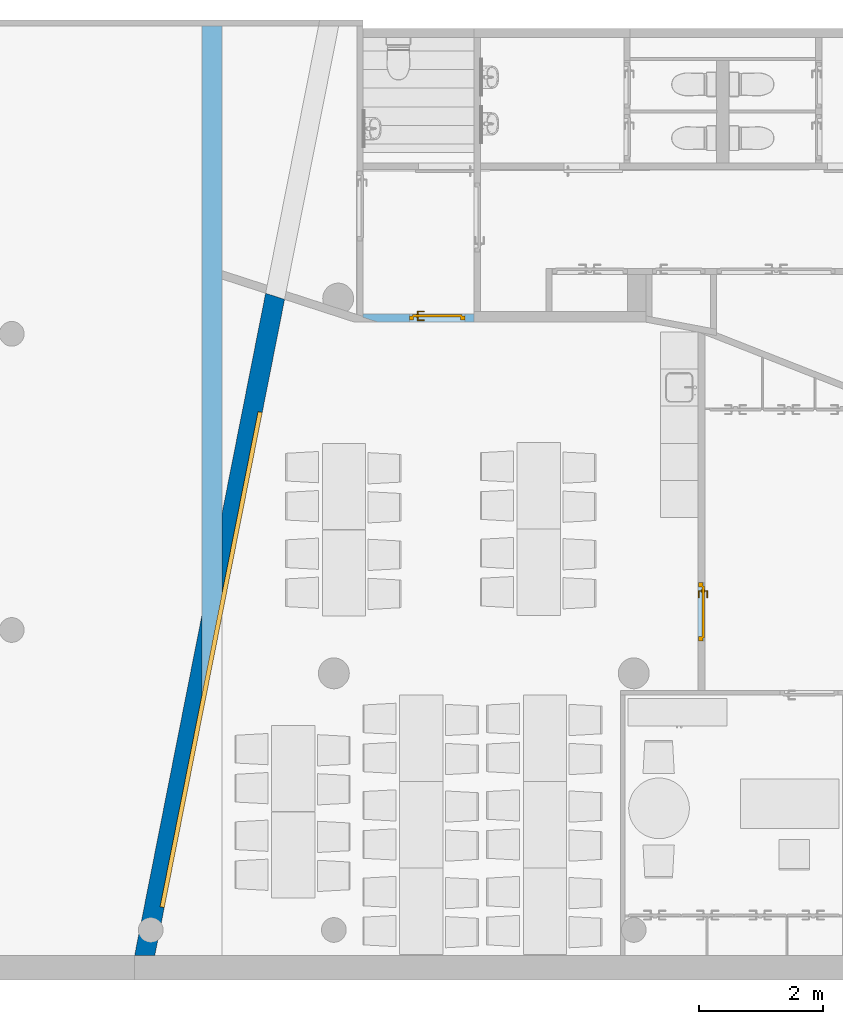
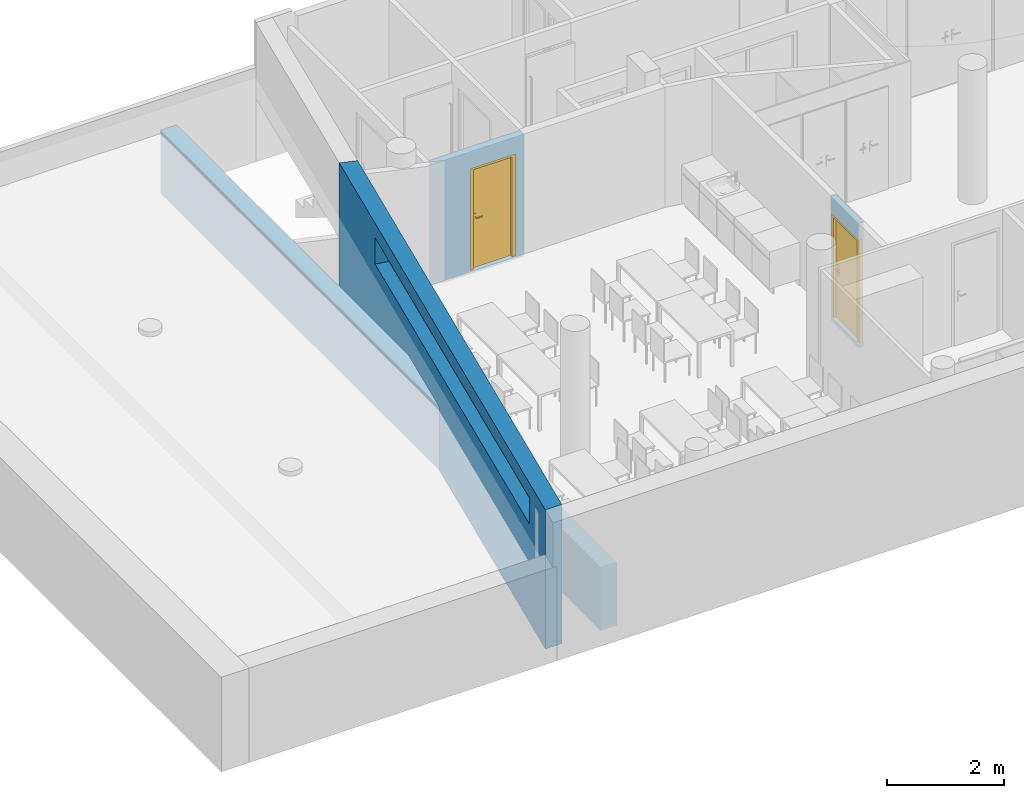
"""IFC4 building model written with IfcOpenShell, lengths in metres."""

from ifc_helpers import new_model, entity, si_unit, converted_unit, derived_unit, frame, frame_2d, origin, origin_with_axes, place, context, subcontext, project, spatial, polyline, rectangle, outline, extrude, closed_shell, open_shell, faceted_brep, surface_model, source, transform, mapped, material, layer, layer_set, layer_usage, type_object, element, fill, save


model = new_model("IFC4")

# Units and contexts
model_context = context("Model", 3, precision=1e-05, world=origin())
body_context = subcontext(model_context, "Body", "Model", "MODEL_VIEW")
ifc_project = project(units=[si_unit("LENGTHUNIT", "METRE"), si_unit("AREAUNIT", "SQUARE_METRE"), si_unit("VOLUMEUNIT", "CUBIC_METRE"), si_unit("MASSUNIT", "GRAM", prefix="KILO"), converted_unit("PLANEANGLEUNIT", "DEGREE", entity("IfcPlaneAngleMeasure", 0.0174532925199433), si_unit("PLANEANGLEUNIT", "RADIAN"), dimensions=[0, 0, 0, 0, 0, 0, 0]), derived_unit("THERMALTRANSMITTANCEUNIT", [(si_unit("POWERUNIT", "WATT"), 1), (si_unit("THERMODYNAMICTEMPERATUREUNIT", "KELVIN"), -1), (si_unit("LENGTHUNIT", "METRE"), -2)]), derived_unit("VOLUMETRICFLOWRATEUNIT", [(si_unit("LENGTHUNIT", "METRE"), 3), (converted_unit("TIMEUNIT", "hour", entity("IfcTimeMeasure", 3600.0), si_unit("TIMEUNIT", "SECOND"), dimensions=[0, 0, 1, 0, 0, 0, 0]), -1), (si_unit("LENGTHUNIT", "METRE"), -1)])], contexts=[model_context])

# Building, storeys
building_placement = place(None, origin())
building = spatial("IfcBuilding", under=ifc_project, at=building_placement, Name="HABITATGE PLURIFAMILIAR", CompositionType="ELEMENT")
storey_1_placement = place(building_placement, frame((0.0, 0.0, 3.35)))
storey_1 = spatial("IfcBuildingStorey", under=building, at=storey_1_placement, Name="PLANTA  ALTELL", CompositionType="ELEMENT", Elevation=3.35)
storey_2_placement = place(storey_1_placement, origin())
storey_2 = spatial("IfcBuildingStorey", under=storey_1, at=storey_2_placement, Name="NOU", CompositionType="PARTIAL")

# Wall, opening, door
ifc_material_1 = material()
ifc_layer_1 = layer(ifc_material_1, 0.13)
ifc_layer_set_1 = layer_set([ifc_layer_1])
ifc_layer_usage_1 = layer_usage(ifc_layer_set_1, "AXIS2", "POSITIVE", 0.0)
wall_1_placement = place(storey_2_placement, frame((401.697874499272, 23.4795914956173, -0.05)))
wall_1 = element("IfcWall", 1, at=wall_1_placement, inside=storey_2, material=ifc_layer_usage_1, Name="Evans PA", context=body_context, shape_type="SweptSolid", body=[
    extrude(outline(polyline([(0.239131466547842, 0.0), (1.79839908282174, 0.0), (1.79839908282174, 0.13), (0.0, 0.13), (0.0, 0.0777705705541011), (0.239131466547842, 0.0)])), frame((-0.239131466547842, 0.0, 0.0), z_axis=(0.0, 0.0, 1.0), x_axis=(1.0, 0.0, 0.0)), (0.0, 0.0, 1.0), 2.55),
])
opening_1_placement = place(wall_1_placement, frame((1.40926911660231, 0.13, 0.05), z_axis=(0.0, -1.0, 0.0), x_axis=(0.0, 0.0, 1.0)))
opening_1 = element("IfcOpeningElement", 2, at=opening_1_placement, cuts=wall_1, Name="Vano de puerta PA", ObjectType="Opening", context=body_context, shape_type="SweptSolid", body=[
    extrude(outline(polyline([(2.15, 0.89999099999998), (2.15, 0.0), (0.0, 0.0), (0.0, 0.89999099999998), (2.15, 0.89999099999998)])), origin_with_axes(), (0.0, 0.0, 1.0), 0.13),
])
shared_shape_1 = source(origin_with_axes(), body_context, "Body", "Brep", [
    faceted_brep([(0.0, 0.07, 2.15), (0.0, 0.07, 0.0), (0.070000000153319, 0.07, 0.0), (0.070000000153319, 0.07, 2.15), (0.0, 0.0, 0.0), (0.0, 0.0, 2.15), (0.070000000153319, 0.0, 2.15), (0.070000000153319, 0.0, 0.0)], [[[0, 1, 2, 3]], [[4, 5, 6, 7]], [[1, 0, 5, 4]], [[2, 1, 4, 7]], [[3, 2, 7, 6]], [[0, 3, 6, 5]]], orient=[[False], [False], [False], [False], [False], [False]]),
    faceted_brep([(0.829990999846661, 0.07, 2.15), (0.829990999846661, 0.07, 0.0), (0.89999099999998, 0.07, 0.0), (0.89999099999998, 0.07, 2.15), (0.829990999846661, 0.0, 0.0), (0.829990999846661, 0.0, 2.15), (0.89999099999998, 0.0, 2.15), (0.89999099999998, 0.0, 0.0)], [[[0, 1, 2, 3]], [[4, 5, 6, 7]], [[1, 0, 5, 4]], [[2, 1, 4, 7]], [[3, 2, 7, 6]], [[0, 3, 6, 5]]], orient=[[False], [False], [False], [False], [False], [False]]),
    faceted_brep([(0.070000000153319, 0.07, 2.15), (0.070000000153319, 0.07, 2.08), (0.829990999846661, 0.07, 2.08), (0.829990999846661, 0.07, 2.15), (0.070000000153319, 0.0, 2.08), (0.070000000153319, 0.0, 2.15), (0.829990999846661, 0.0, 2.15), (0.829990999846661, 0.0, 2.08)], [[[0, 1, 2, 3]], [[4, 5, 6, 7]], [[1, 0, 5, 4]], [[2, 1, 4, 7]], [[3, 2, 7, 6]], [[0, 3, 6, 5]]], orient=[[False], [False], [False], [False], [False], [False]]),
    faceted_brep([(0.0500000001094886, 0.09, 2.1), (0.0500000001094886, 0.09, 0.0), (0.849990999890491, 0.09, 0.0), (0.849990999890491, 0.09, 2.1), (0.0500000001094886, 0.05, 0.0), (0.0500000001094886, 0.05, 2.1), (0.849990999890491, 0.05, 2.1), (0.849990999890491, 0.05, 0.0)], [[[0, 1, 2, 3]], [[4, 5, 6, 7]], [[1, 0, 5, 4]], [[2, 1, 4, 7]], [[3, 2, 7, 6]], [[0, 3, 6, 5]]], orient=[[False], [False], [False], [False], [False], [False]]),
    faceted_brep([(0.110000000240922, 0.05, 1.125), (0.110000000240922, 0.05, 0.91), (0.16000000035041, 0.05, 0.91), (0.16000000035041, 0.05, 1.125), (0.110000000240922, 0.04, 0.91), (0.110000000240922, 0.04, 1.125), (0.16000000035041, 0.04, 1.125), (0.16000000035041, 0.04, 0.91)], [[[0, 1, 2, 3]], [[4, 5, 6, 7]], [[1, 0, 5, 4]], [[2, 1, 4, 7]], [[3, 2, 7, 6]], [[0, 3, 6, 5]]], orient=[[False], [False], [False], [False], [False], [False]]),
    faceted_brep([(0.135000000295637, 0.04, 1.06), (0.130000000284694, 0.04, 1.05866025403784), (0.126339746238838, 0.04, 1.055), (0.125000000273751, 0.04, 1.05), (0.126339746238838, 0.04, 1.045), (0.130000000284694, 0.04, 1.04133974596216), (0.135000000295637, 0.04, 1.04), (0.14000000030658, 0.04, 1.04133974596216), (0.143660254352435, 0.04, 1.045), (0.145000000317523, 0.04, 1.05), (0.143660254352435, 0.04, 1.055), (0.14000000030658, 0.04, 1.05866025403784), (0.135000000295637, 0.0, 1.06), (0.130000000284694, -0.005, 1.05866025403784), (0.126339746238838, -0.00866025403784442, 1.055), (0.125000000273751, -0.01, 1.05), (0.126339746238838, -0.00866025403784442, 1.045), (0.130000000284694, -0.005, 1.04133974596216), (0.135000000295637, 0.0, 1.04), (0.14000000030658, 0.005, 1.04133974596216), (0.143660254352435, 0.00866025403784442, 1.045), (0.145000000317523, 0.01, 1.05), (0.143660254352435, 0.00866025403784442, 1.055), (0.14000000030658, 0.005, 1.05866025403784), (0.250000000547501, 0.0, 1.06), (0.250000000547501, 0.005, 1.05866025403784), (0.250000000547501, 0.00866025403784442, 1.055), (0.250000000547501, 0.01, 1.05), (0.250000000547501, 0.00866025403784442, 1.045), (0.250000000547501, 0.005, 1.04133974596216), (0.250000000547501, 0.0, 1.04), (0.250000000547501, -0.005, 1.04133974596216), (0.250000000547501, -0.00866025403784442, 1.045), (0.250000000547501, -0.01, 1.05), (0.250000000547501, -0.00866025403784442, 1.055), (0.250000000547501, -0.005, 1.05866025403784)], [[[0, 1, 2, 3, 4, 5, 6, 7, 8, 9, 10, 11]], [[0, 12, 13, 1]], [[1, 13, 14, 2]], [[2, 14, 15, 3]], [[3, 15, 16, 4]], [[4, 16, 17, 5]], [[5, 17, 18, 6]], [[6, 18, 19, 7]], [[7, 19, 20, 8]], [[8, 20, 21, 9]], [[9, 21, 22, 10]], [[10, 22, 23, 11]], [[11, 23, 12, 0]], [[24, 25, 26, 27, 28, 29, 30, 31, 32, 33, 34, 35]], [[12, 24, 35, 13]], [[13, 35, 34, 14]], [[14, 34, 33, 15]], [[15, 33, 32, 16]], [[16, 32, 31, 17]], [[17, 31, 30, 18]], [[18, 30, 29, 19]], [[19, 29, 28, 20]], [[20, 28, 27, 21]], [[21, 27, 26, 22]], [[22, 26, 25, 23]], [[23, 25, 24, 12]]], orient=[[False], [False], [False], [False], [False], [False], [False], [False], [False], [False], [False], [False], [False], [False], [False], [False], [False], [False], [False], [False], [False], [False], [False], [False], [False], [False]]),
    faceted_brep([(0.110000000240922, 0.09, 1.125), (0.16000000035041, 0.09, 1.125), (0.16000000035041, 0.09, 0.91), (0.110000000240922, 0.09, 0.91), (0.110000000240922, 0.1, 0.91), (0.16000000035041, 0.1, 0.91), (0.16000000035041, 0.1, 1.125), (0.110000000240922, 0.1, 1.125)], [[[0, 1, 2, 3]], [[4, 5, 6, 7]], [[3, 4, 7, 0]], [[2, 5, 4, 3]], [[1, 6, 5, 2]], [[0, 7, 6, 1]]], orient=[[False], [False], [False], [False], [False], [False]]),
    faceted_brep([(0.135000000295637, 0.1, 1.06), (0.14000000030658, 0.1, 1.05866025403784), (0.143660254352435, 0.1, 1.055), (0.145000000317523, 0.1, 1.05), (0.143660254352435, 0.1, 1.045), (0.14000000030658, 0.1, 1.04133974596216), (0.135000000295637, 0.1, 1.04), (0.130000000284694, 0.1, 1.04133974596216), (0.126339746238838, 0.1, 1.045), (0.125000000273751, 0.1, 1.05), (0.126339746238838, 0.1, 1.055), (0.130000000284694, 0.1, 1.05866025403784), (0.130000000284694, 0.145, 1.05866025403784), (0.135000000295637, 0.14, 1.06), (0.126339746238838, 0.148660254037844, 1.055), (0.125000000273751, 0.15, 1.05), (0.126339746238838, 0.148660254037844, 1.045), (0.130000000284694, 0.145, 1.04133974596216), (0.135000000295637, 0.14, 1.04), (0.14000000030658, 0.135, 1.04133974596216), (0.143660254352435, 0.131339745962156, 1.045), (0.145000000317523, 0.13, 1.05), (0.143660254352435, 0.131339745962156, 1.055), (0.14000000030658, 0.135, 1.05866025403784), (0.250000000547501, 0.14, 1.06), (0.250000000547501, 0.145, 1.05866025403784), (0.250000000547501, 0.148660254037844, 1.055), (0.250000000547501, 0.15, 1.05), (0.250000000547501, 0.148660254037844, 1.045), (0.250000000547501, 0.145, 1.04133974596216), (0.250000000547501, 0.14, 1.04), (0.250000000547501, 0.135, 1.04133974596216), (0.250000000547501, 0.131339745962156, 1.045), (0.250000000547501, 0.13, 1.05), (0.250000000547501, 0.131339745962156, 1.055), (0.250000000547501, 0.135, 1.05866025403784)], [[[0, 1, 2, 3, 4, 5, 6, 7, 8, 9, 10, 11]], [[0, 11, 12, 13]], [[11, 10, 14, 12]], [[10, 9, 15, 14]], [[9, 8, 16, 15]], [[8, 7, 17, 16]], [[7, 6, 18, 17]], [[6, 5, 19, 18]], [[5, 4, 20, 19]], [[4, 3, 21, 20]], [[3, 2, 22, 21]], [[2, 1, 23, 22]], [[1, 0, 13, 23]], [[24, 25, 26, 27, 28, 29, 30, 31, 32, 33, 34, 35]], [[13, 12, 25, 24]], [[12, 14, 26, 25]], [[14, 15, 27, 26]], [[15, 16, 28, 27]], [[16, 17, 29, 28]], [[17, 18, 30, 29]], [[18, 19, 31, 30]], [[19, 20, 32, 31]], [[20, 21, 33, 32]], [[21, 22, 34, 33]], [[22, 23, 35, 34]], [[23, 13, 24, 35]]], orient=[[False], [False], [False], [False], [False], [False], [False], [False], [False], [False], [False], [False], [False], [False], [False], [False], [False], [False], [False], [False], [False], [False], [False], [False], [False], [False]]),
])
door_1_placement = place(opening_1_placement, frame((0.0, 0.89999099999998, 0.1), z_axis=(1.0, 0.0, 0.0), x_axis=(0.0, -1.0, 0.0)))
door_1 = element("IfcDoor", 3, at=door_1_placement, inside=storey_2, Name="Porta PA", OperationType="USERDEFINED", OverallHeight=2.15, OverallWidth=0.89999, PredefinedType="DOOR", context=body_context, shape_type="MappedRepresentation", body=[
    mapped(shared_shape_1, transform((0.0, 0.0, 0.0), x_axis=(1.0, 0.0, 0.0), y_axis=(0.0, 1.0, 0.0), z_axis=(0.0, 0.0, 1.0), scale=1.0)),
])
fill(opening_1, door_1)

ifc_material_2 = material()
ifc_layer_2 = layer(ifc_material_2, 0.32)
ifc_layer_set_2 = layer_set([ifc_layer_2])
ifc_layer_usage_2 = layer_usage(ifc_layer_set_2, "AXIS2", "POSITIVE", 0.0)
wall_2_placement = place(storey_2_placement, frame((399.177182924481, 13.2406121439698, -0.1), z_axis=(0.0, 0.0, 1.0), x_axis=(0.0, 1.0, 0.0)))
wall_2 = element("IfcWall", 4, at=wall_2_placement, inside=storey_2, material=ifc_layer_usage_2, Name="Evans PA", context=body_context, shape_type="SweptSolid", body=[
    extrude(rectangle(XDim=15.0232444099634, YDim=0.32, at=frame_2d((7.51162220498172, 0.16), x_axis=(1.0, 0.0))), origin_with_axes(), (0.0, 0.0, 1.0), 1.32),
])
opening_2_placement = place(wall_2_placement, frame((8.84038410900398, -0.338234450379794, 2.05), z_axis=(-0.19407706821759, -0.980986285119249, 0.0), x_axis=(0.0, 0.0, 1.0)))
opening_2 = element("IfcOpeningElement", 5, at=opening_2_placement, cuts=wall_2, Name="Vano de finestra PA", ObjectType="Opening", context=body_context, shape_type="SweptSolid", body=[
    extrude(outline(polyline([(0.55, 8.163087), (0.55, 0.0), (0.0, 0.0), (0.0, 8.163087), (0.55, 8.163087)])), origin_with_axes(), (0.0, 0.0, 1.0), 0.319999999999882),
])
door_type = type_object("IfcDoorType", Name="Finestra PSC", OperationType="NOTDEFINED", ParameterTakesPrecedence=False, PredefinedType="DOOR")
shared_shape_2 = source(origin_with_axes(), body_context, "Body", "SurfaceModel", [
    surface_model("IfcShellBasedSurfaceModel", [(0.0, 0.0700000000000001, 0.55), (0.0, 0.07, 0.0), (0.07, 0.07, 0.0), (0.07, 0.0700000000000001, 0.55), (0.0, 0.0, 0.0), (0.0, 0.0, 0.55), (0.07, 0.0, 0.55), (0.07, 0.0, 0.0)], [closed_shell([[[0, 1, 2, 3]], [[4, 5, 6, 7]], [[1, 0, 5, 4]], [[2, 1, 4, 7]], [[3, 2, 7, 6]], [[0, 3, 6, 5]]], orient=[[False], [False], [False], [False], [False], [False]])]),
    surface_model("IfcShellBasedSurfaceModel", [(8.093086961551, 0.0700000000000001, 0.55), (8.093086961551, 0.07, 0.0), (8.163086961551, 0.07, 0.0), (8.163086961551, 0.0700000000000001, 0.55), (8.093086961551, 0.0, 0.0), (8.093086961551, 0.0, 0.55), (8.163086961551, 0.0, 0.55), (8.163086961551, 0.0, 0.0)], [closed_shell([[[0, 1, 2, 3]], [[4, 5, 6, 7]], [[1, 0, 5, 4]], [[2, 1, 4, 7]], [[3, 2, 7, 6]], [[0, 3, 6, 5]]], orient=[[False], [False], [False], [False], [False], [False]])]),
    surface_model("IfcShellBasedSurfaceModel", [(0.07, 0.07, 0.07), (0.07, 0.07, 0.0), (8.093086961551, 0.07, 0.0), (8.093086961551, 0.07, 0.07), (0.07, 0.0, 0.0), (0.07, 0.0, 0.07), (8.093086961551, 0.0, 0.07), (8.093086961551, 0.0, 0.0)], [closed_shell([[[0, 1, 2, 3]], [[4, 5, 6, 7]], [[1, 0, 5, 4]], [[2, 1, 4, 7]], [[3, 2, 7, 6]], [[0, 3, 6, 5]]], orient=[[False], [False], [False], [False], [False], [False]])]),
    surface_model("IfcShellBasedSurfaceModel", [(0.07, 0.0700000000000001, 0.55), (0.07, 0.07, 0.48), (8.093086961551, 0.07, 0.48), (8.093086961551, 0.0700000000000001, 0.55), (0.07, 0.0, 0.48), (0.07, 0.0, 0.55), (8.093086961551, 0.0, 0.55), (8.093086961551, 0.0, 0.48)], [closed_shell([[[0, 1, 2, 3]], [[4, 5, 6, 7]], [[1, 0, 5, 4]], [[2, 1, 4, 7]], [[3, 2, 7, 6]], [[0, 3, 6, 5]]], orient=[[False], [False], [False], [False], [False], [False]])]),
    surface_model("IfcShellBasedSurfaceModel", [(0.07, 0.035, 0.07), (8.093086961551, 0.035, 0.07), (8.093086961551, 0.0350000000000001, 0.48), (0.07, 0.0350000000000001, 0.48)], [open_shell([[[0, 1, 2, 3]]], orient=[[False]])]),
])
door_2_placement = place(opening_2_placement, frame((0.0, 0.0, 0.250000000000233), z_axis=(1.0, 0.0, 0.0), x_axis=(0.0, 1.00000000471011, 5.55111512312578e-16)))
door_2 = element("IfcDoor", 6, at=door_2_placement, inside=storey_2, type_object=door_type, Name="Finestra PSC", OverallHeight=0.55, OverallWidth=8.16309, context=body_context, shape_type="MappedRepresentation", body=[
    mapped(shared_shape_2, transform((0.0, 0.0, 0.0), x_axis=(1.0, 0.0, 0.0), y_axis=(0.0, 1.0, 0.0), z_axis=(0.0, 0.0, 1.0), scale=1.00000000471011)),
])
fill(opening_2, door_2)

# Wall
wall_3_placement = place(storey_2_placement, frame((397.766447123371, 13.2406121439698, -0.1)))
element("IfcWall", 7, at=wall_3_placement, inside=storey_2, Name="Evans PA", context=body_context, shape_type="Brep", body=[
    faceted_brep([(2.06288586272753, 8.77827944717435, 2.05), (0.47861787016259, 0.770403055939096, 2.05), (0.164702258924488, 0.832507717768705, 2.05), (1.74897025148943, 8.84038410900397, 2.05), (1.74897025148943, 8.84038410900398, 2.6), (0.164702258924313, 0.832507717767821, 2.6), (0.47861787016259, 0.770403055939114, 2.6), (2.06288586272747, 8.77827944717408, 2.6), (0.0, 0.0, 0.0), (2.11784040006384, 10.7048834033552, 0.0), (2.11784040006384, 10.7048834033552, 2.9), (0.0, 0.0, 2.9), (2.42432321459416, 10.6052087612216, 0.0), (2.42432321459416, 10.6052087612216, 2.9), (0.326202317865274, 0.0, 0.0), (0.326202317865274, 0.0, 2.9)], [[[0, 1, 2, 3]], [[4, 5, 6, 7]], [[7, 0, 3, 4]], [[5, 2, 1, 6]], [[8, 9, 10, 11], [2, 5, 4, 3]], [[9, 12, 13, 10]], [[12, 14, 15, 13], [0, 7, 6, 1]], [[14, 8, 11, 15]], [[15, 11, 10, 13]], [[8, 14, 12, 9]]], orient=[[False], [False], [False], [False], [False, False], [False], [False, False], [False], [False], [False]]),
])

# Wall, opening, door
ifc_material_3 = material()
ifc_layer_3 = layer(ifc_material_3, 0.1)
ifc_layer_set_3 = layer_set([ifc_layer_3])
ifc_layer_usage_3 = layer_usage(ifc_layer_set_3, "AXIS2", "POSITIVE", 0.0)
wall_4_placement = place(storey_2_placement, frame((406.871931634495, 19.2644751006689, -0.1), z_axis=(0.0, 0.0, 1.0), x_axis=(0.0, -1.0, 0.0)))
wall_4 = element("IfcWall", 8, at=wall_4_placement, inside=storey_2, material=ifc_layer_usage_3, Name="Evans PA", context=body_context, shape_type="SweptSolid", body=[
    extrude(rectangle(XDim=0.94, YDim=0.1, at=frame_2d((0.47, 0.05), x_axis=(1.0, 0.0))), origin_with_axes(), (0.0, 0.0, 1.0), 2.6),
])
opening_3_placement = place(wall_4_placement, frame((0.0, 0.0, 0.1), z_axis=(0.0, 1.0, 0.0), x_axis=(0.0, 0.0, 1.0)))
opening_3 = element("IfcOpeningElement", 9, at=opening_3_placement, cuts=wall_4, Name="Vano puerta", ObjectType="Opening", context=body_context, shape_type="SweptSolid", body=[
    extrude(outline(polyline([(2.15, 0.94), (2.15, 0.0), (0.0, 0.0), (0.0, 0.94), (2.15, 0.94)])), origin_with_axes(), (0.0, 0.0, 1.0), 0.1),
])
shared_shape_3 = source(origin_with_axes(), body_context, "Body", "Brep", [
    faceted_brep([(0.0, 0.0699999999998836, 2.15), (0.0, 0.0699999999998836, 0.0), (0.0700000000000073, 0.0699999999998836, 0.0), (0.0700000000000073, 0.0699999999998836, 2.15), (0.0, 0.0, 0.0), (0.0, 0.0, 2.15), (0.0700000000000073, 0.0, 2.15), (0.0700000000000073, 0.0, 0.0)], [[[0, 1, 2, 3]], [[4, 5, 6, 7]], [[1, 0, 5, 4]], [[2, 1, 4, 7]], [[3, 2, 7, 6]], [[0, 3, 6, 5]]], orient=[[False], [False], [False], [False], [False], [False]]),
    faceted_brep([(0.870000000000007, 0.0699999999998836, 2.15), (0.870000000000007, 0.0699999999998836, 0.0), (0.940000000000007, 0.0699999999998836, 0.0), (0.940000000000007, 0.0699999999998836, 2.15), (0.870000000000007, 0.0, 0.0), (0.870000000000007, 0.0, 2.15), (0.940000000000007, 0.0, 2.15), (0.940000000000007, 0.0, 0.0)], [[[0, 1, 2, 3]], [[4, 5, 6, 7]], [[1, 0, 5, 4]], [[2, 1, 4, 7]], [[3, 2, 7, 6]], [[0, 3, 6, 5]]], orient=[[False], [False], [False], [False], [False], [False]]),
    faceted_brep([(0.0700000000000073, 0.0699999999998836, 2.15), (0.0700000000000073, 0.0699999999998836, 2.08), (0.870000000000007, 0.0699999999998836, 2.08), (0.870000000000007, 0.0699999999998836, 2.15), (0.0700000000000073, 0.0, 2.08), (0.0700000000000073, 0.0, 2.15), (0.870000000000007, 0.0, 2.15), (0.870000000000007, 0.0, 2.08)], [[[0, 1, 2, 3]], [[4, 5, 6, 7]], [[1, 0, 5, 4]], [[2, 1, 4, 7]], [[3, 2, 7, 6]], [[0, 3, 6, 5]]], orient=[[False], [False], [False], [False], [False], [False]]),
    faceted_brep([(0.0500000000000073, 0.0899999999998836, 2.1), (0.0500000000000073, 0.0899999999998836, 0.0), (0.890000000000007, 0.0899999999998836, 0.0), (0.890000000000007, 0.0899999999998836, 2.1), (0.0500000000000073, 0.0499999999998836, 0.0), (0.0500000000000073, 0.0499999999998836, 2.1), (0.890000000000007, 0.0499999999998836, 2.1), (0.890000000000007, 0.0499999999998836, 0.0)], [[[0, 1, 2, 3]], [[4, 5, 6, 7]], [[1, 0, 5, 4]], [[2, 1, 4, 7]], [[3, 2, 7, 6]], [[0, 3, 6, 5]]], orient=[[False], [False], [False], [False], [False], [False]]),
    faceted_brep([(0.110000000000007, 0.0499999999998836, 1.125), (0.110000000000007, 0.0499999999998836, 0.91), (0.160000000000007, 0.0499999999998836, 0.91), (0.160000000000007, 0.0499999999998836, 1.125), (0.110000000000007, 0.0399999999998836, 0.91), (0.110000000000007, 0.0399999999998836, 1.125), (0.160000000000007, 0.0399999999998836, 1.125), (0.160000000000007, 0.0399999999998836, 0.91)], [[[0, 1, 2, 3]], [[4, 5, 6, 7]], [[1, 0, 5, 4]], [[2, 1, 4, 7]], [[3, 2, 7, 6]], [[0, 3, 6, 5]]], orient=[[False], [False], [False], [False], [False], [False]]),
    faceted_brep([(0.135000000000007, 0.0399999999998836, 1.06), (0.130000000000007, 0.0399999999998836, 1.05866025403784), (0.126339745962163, 0.0399999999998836, 1.055), (0.125000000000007, 0.0399999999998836, 1.05), (0.126339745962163, 0.0399999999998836, 1.045), (0.130000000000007, 0.0399999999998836, 1.04133974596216), (0.135000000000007, 0.0399999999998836, 1.04), (0.140000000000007, 0.0399999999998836, 1.04133974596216), (0.143660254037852, 0.0399999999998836, 1.045), (0.145000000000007, 0.0399999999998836, 1.05), (0.143660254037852, 0.0399999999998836, 1.055), (0.140000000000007, 0.0399999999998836, 1.05866025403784), (0.135000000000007, 0.0, 1.06), (0.130000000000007, -0.00500000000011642, 1.05866025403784), (0.126339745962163, -0.00866025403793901, 1.055), (0.125000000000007, -0.0100000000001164, 1.05), (0.126339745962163, -0.00866025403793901, 1.045), (0.130000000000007, -0.00500000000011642, 1.04133974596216), (0.135000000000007, 0.0, 1.04), (0.140000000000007, 0.00499999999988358, 1.04133974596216), (0.143660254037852, 0.00866025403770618, 1.045), (0.145000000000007, 0.00999999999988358, 1.05), (0.143660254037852, 0.00866025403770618, 1.055), (0.140000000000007, 0.00499999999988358, 1.05866025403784), (0.250000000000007, 0.0, 1.06), (0.250000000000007, 0.00499999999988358, 1.05866025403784), (0.250000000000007, 0.00866025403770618, 1.055), (0.250000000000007, 0.00999999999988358, 1.05), (0.250000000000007, 0.00866025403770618, 1.045), (0.250000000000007, 0.00499999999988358, 1.04133974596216), (0.250000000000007, 0.0, 1.04), (0.250000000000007, -0.00500000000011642, 1.04133974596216), (0.250000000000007, -0.00866025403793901, 1.045), (0.250000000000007, -0.0100000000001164, 1.05), (0.250000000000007, -0.00866025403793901, 1.055), (0.250000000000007, -0.00500000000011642, 1.05866025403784)], [[[0, 1, 2, 3, 4, 5, 6, 7, 8, 9, 10, 11]], [[0, 12, 13, 1]], [[1, 13, 14, 2]], [[2, 14, 15, 3]], [[3, 15, 16, 4]], [[4, 16, 17, 5]], [[5, 17, 18, 6]], [[6, 18, 19, 7]], [[7, 19, 20, 8]], [[8, 20, 21, 9]], [[9, 21, 22, 10]], [[10, 22, 23, 11]], [[11, 23, 12, 0]], [[24, 25, 26, 27, 28, 29, 30, 31, 32, 33, 34, 35]], [[12, 24, 35, 13]], [[13, 35, 34, 14]], [[14, 34, 33, 15]], [[15, 33, 32, 16]], [[16, 32, 31, 17]], [[17, 31, 30, 18]], [[18, 30, 29, 19]], [[19, 29, 28, 20]], [[20, 28, 27, 21]], [[21, 27, 26, 22]], [[22, 26, 25, 23]], [[23, 25, 24, 12]]], orient=[[False], [False], [False], [False], [False], [False], [False], [False], [False], [False], [False], [False], [False], [False], [False], [False], [False], [False], [False], [False], [False], [False], [False], [False], [False], [False]]),
    faceted_brep([(0.110000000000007, 0.0899999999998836, 1.125), (0.160000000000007, 0.0899999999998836, 1.125), (0.160000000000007, 0.0899999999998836, 0.91), (0.110000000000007, 0.0899999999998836, 0.91), (0.110000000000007, 0.0999999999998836, 0.91), (0.160000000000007, 0.0999999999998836, 0.91), (0.160000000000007, 0.0999999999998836, 1.125), (0.110000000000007, 0.0999999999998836, 1.125)], [[[0, 1, 2, 3]], [[4, 5, 6, 7]], [[3, 4, 7, 0]], [[2, 5, 4, 3]], [[1, 6, 5, 2]], [[0, 7, 6, 1]]], orient=[[False], [False], [False], [False], [False], [False]]),
    faceted_brep([(0.135000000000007, 0.0999999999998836, 1.06), (0.140000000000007, 0.0999999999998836, 1.05866025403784), (0.143660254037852, 0.0999999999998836, 1.055), (0.145000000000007, 0.0999999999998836, 1.05), (0.143660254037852, 0.0999999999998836, 1.045), (0.140000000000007, 0.0999999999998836, 1.04133974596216), (0.135000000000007, 0.0999999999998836, 1.04), (0.130000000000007, 0.0999999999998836, 1.04133974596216), (0.126339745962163, 0.0999999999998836, 1.045), (0.125000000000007, 0.0999999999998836, 1.05), (0.126339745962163, 0.0999999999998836, 1.055), (0.130000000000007, 0.0999999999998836, 1.05866025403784), (0.130000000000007, 0.144999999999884, 1.05866025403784), (0.135000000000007, 0.139999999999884, 1.06), (0.126339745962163, 0.148660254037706, 1.055), (0.125000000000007, 0.149999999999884, 1.05), (0.126339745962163, 0.148660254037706, 1.045), (0.130000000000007, 0.144999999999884, 1.04133974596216), (0.135000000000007, 0.139999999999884, 1.04), (0.140000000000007, 0.134999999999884, 1.04133974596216), (0.143660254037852, 0.131339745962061, 1.045), (0.145000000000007, 0.129999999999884, 1.05), (0.143660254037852, 0.131339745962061, 1.055), (0.140000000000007, 0.134999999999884, 1.05866025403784), (0.250000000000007, 0.139999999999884, 1.06), (0.250000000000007, 0.144999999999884, 1.05866025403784), (0.250000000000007, 0.148660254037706, 1.055), (0.250000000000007, 0.149999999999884, 1.05), (0.250000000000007, 0.148660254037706, 1.045), (0.250000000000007, 0.144999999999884, 1.04133974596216), (0.250000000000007, 0.139999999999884, 1.04), (0.250000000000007, 0.134999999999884, 1.04133974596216), (0.250000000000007, 0.131339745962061, 1.045), (0.250000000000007, 0.129999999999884, 1.05), (0.250000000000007, 0.131339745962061, 1.055), (0.250000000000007, 0.134999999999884, 1.05866025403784)], [[[0, 1, 2, 3, 4, 5, 6, 7, 8, 9, 10, 11]], [[0, 11, 12, 13]], [[11, 10, 14, 12]], [[10, 9, 15, 14]], [[9, 8, 16, 15]], [[8, 7, 17, 16]], [[7, 6, 18, 17]], [[6, 5, 19, 18]], [[5, 4, 20, 19]], [[4, 3, 21, 20]], [[3, 2, 22, 21]], [[2, 1, 23, 22]], [[1, 0, 13, 23]], [[24, 25, 26, 27, 28, 29, 30, 31, 32, 33, 34, 35]], [[13, 12, 25, 24]], [[12, 14, 26, 25]], [[14, 15, 27, 26]], [[15, 16, 28, 27]], [[16, 17, 29, 28]], [[17, 18, 30, 29]], [[18, 19, 31, 30]], [[19, 20, 32, 31]], [[20, 21, 33, 32]], [[21, 22, 34, 33]], [[22, 23, 35, 34]], [[23, 13, 24, 35]]], orient=[[False], [False], [False], [False], [False], [False], [False], [False], [False], [False], [False], [False], [False], [False], [False], [False], [False], [False], [False], [False], [False], [False], [False], [False], [False], [False]]),
])
door_3_placement = place(opening_3_placement, frame((0.0, 0.0, 0.015), z_axis=(1.0, 0.0, 0.0), x_axis=(0.0, 1.0, 0.0)))
door_3 = element("IfcDoor", 10, at=door_3_placement, inside=storey_2, Name="Porta PA", OperationType="USERDEFINED", OverallHeight=2.15, OverallWidth=0.94, PredefinedType="DOOR", context=body_context, shape_type="MappedRepresentation", body=[
    mapped(shared_shape_3, transform((0.0, 0.0, 0.0), x_axis=(1.0, 0.0, 0.0), y_axis=(0.0, 1.0, 0.0), z_axis=(0.0, 0.0, 1.0), scale=1.0)),
])
fill(opening_3, door_3)

save(model, "model.ifc")
